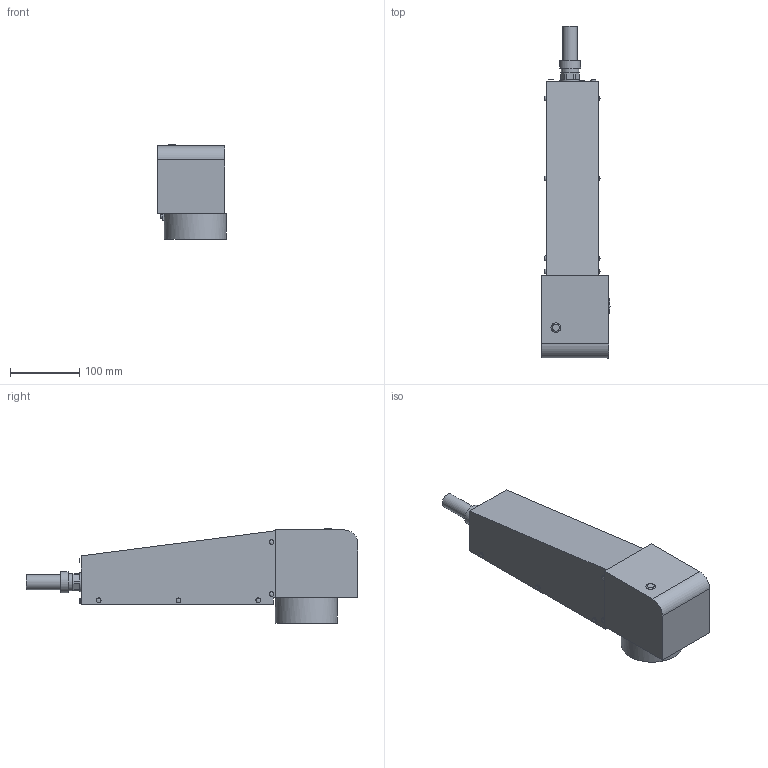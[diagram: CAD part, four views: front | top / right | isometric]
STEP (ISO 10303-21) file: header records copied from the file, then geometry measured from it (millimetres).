
FILE_DESCRIPTION(/* description */ (''),/* implementation_level */ '2;1');
FILE_NAME(/* name */ '',/* time_stamp */ '2025-08-20T14:14:40+09:00',/* author */ (''),/* organization */ (''),/* preprocessor_version */ 'ST-DEVELOPER v20.1',/* originating_system */ 'Autodesk Translation Framework v14.10.0.0',/* authorisation */ '');
FILE_SCHEMA (('AUTOMOTIVE_DESIGN { 1 0 10303 214 3 1 1 }'));
Length unit declared in the file: millimetre
Products named in the file (1): スキャナー-FG5110
Bounding box: 98 x 478 x 135.5 mm (x, y, z)
Volume: 3195260.5 mm3; surface area: 174045.1 mm2
Topology: 1 solids, 1 shells, 100 faces, 194 edges, 126 vertices
Faces by surface type: plane 51, cylinder 18, cone 16, sphere 15
Full cylindrical faces by diameter (mm): 5 x10, 14 x1, 21.1 x1, 25 x1, 27 x1, 30 x1, 75.5 x1, 89 x1
Entity records: 2622 total; most frequent: DIRECTION 482, CARTESIAN_POINT 421, ORIENTED_EDGE 388, EDGE_CURVE 194, AXIS2_PLACEMENT_3D 187, EDGE_LOOP 130, VERTEX_POINT 126, LINE 108
